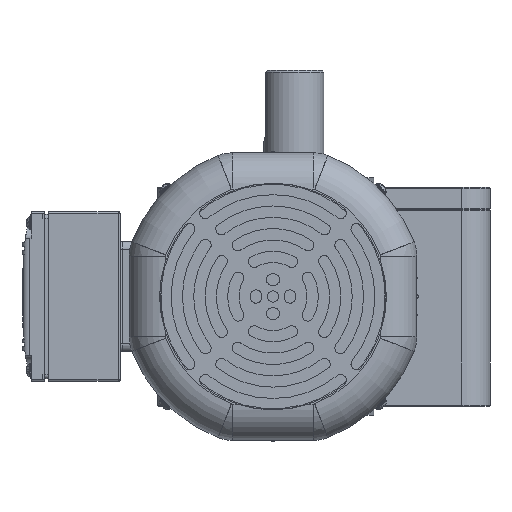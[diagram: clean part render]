
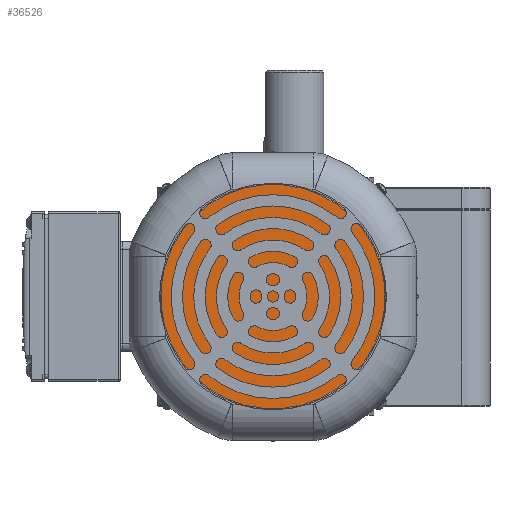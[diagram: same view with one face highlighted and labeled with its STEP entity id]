
A CAD part, left-side view. The second image highlights one B-rep face of the part: STEP entity #36526.
In plain terms, the highlighted planar face has unit normal (-1, 0, 0).
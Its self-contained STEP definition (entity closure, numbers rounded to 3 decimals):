
#1348=PLANE('',#40449);
#3252=FACE_OUTER_BOUND('',#5398,.T.);
#5398=EDGE_LOOP('',(#31314));
#7610=CIRCLE('',#40450,59.5);
#16478=VERTEX_POINT('',#66127);
#21513=EDGE_CURVE('',#16478,#16478,#7610,.T.);
#31314=ORIENTED_EDGE('',*,*,#21513,.F.);
#36526=ADVANCED_FACE('',(#3252),#1348,.F.);
#40449=AXIS2_PLACEMENT_3D('',#66126,#50596,#50597);
#40450=AXIS2_PLACEMENT_3D('',#66128,#50598,#50599);
#50596=DIRECTION('center_axis',(1.,0.,0.));
#50597=DIRECTION('ref_axis',(0.,-0.707,-0.707));
#50598=DIRECTION('center_axis',(1.,0.,0.));
#50599=DIRECTION('ref_axis',(0.,-0.707,-0.707));
#66126=CARTESIAN_POINT('Origin',(-302.261,-17.204,-25.633));
#66127=CARTESIAN_POINT('',(-302.261,24.869,16.44));
#66128=CARTESIAN_POINT('Origin',(-302.261,-17.204,-25.633));
